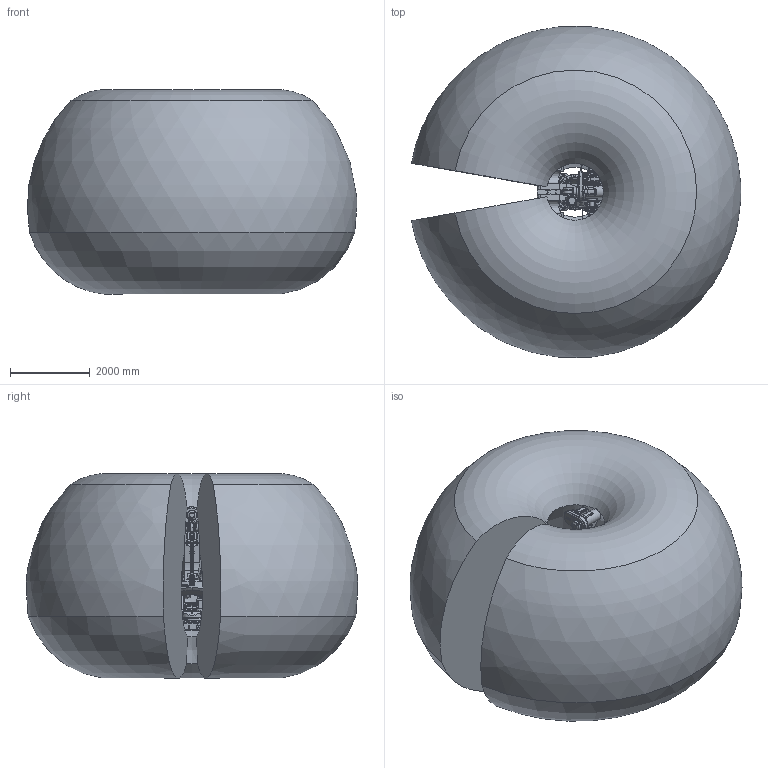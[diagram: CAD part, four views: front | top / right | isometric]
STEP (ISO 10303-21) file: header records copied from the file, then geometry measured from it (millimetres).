
FILE_DESCRIPTION(/* description */ (''),/* implementation_level */ '2;1');
FILE_NAME(/* name */ 'E:\组装完成的图纸\IRB 8700\IRB 8700-550-4.2\IRB 8700-550-4.2(带工作域).stp',/* time_stamp */ '2023-10-31T12:18:14+08:00',/* author */ ('Administrator'),/* organization */ (''),/* preprocessor_version */ 'ST-DEVELOPER v16.5',/* originating_system */ 'Autodesk Inventor 2017',/* authorisation */ '');
FILE_SCHEMA (('AUTOMOTIVE_DESIGN { 1 0 10303 214 3 1 1 }'));
Length unit declared in the file: millimetre
Products named in the file (15): 部件4; IRB8700_550-420_IRC5_rev00_BAL-A-LEFT_CAD; IRB8700_550-420_IRC5_rev00_BAL-A-RIGHT_CAD; IRB8700_550-420_IRC5_rev00_BAL-B-LEFT_CAD; IRB8700_550-420_IRC5_rev00_BAL-B-RIGHT_CAD; IRB8700_550-420_IRC5_rev00_LINK1_CAD; IRB8700_550-420_IRC5_rev00_LINK2_CAD; IRB8700_550-420_IRC5_rev00_LINK3_CAD; IRB8700_550-420_IRC5_rev00_LINK4_CAD; IRB8700_550-420_IRC5_rev00_LINK5_CAD; IRB8700_550-420_IRC5_rev00_LINK6_CAD; IRB8700_550-420_IRC5_rev00_LINKARM_CAD; IRB8700_550-420_IRC5_rev00_LINKBAR_CAD; IRB8700_550-420_IRC5_rev01_BASE_CAD; IRB8700_550-420_IRC5_WORKING_AREA
Assembly tree (14 placements, depth 2):
  部件4
    IRB8700_550-420_IRC5_rev00_BAL-A-LEFT_CAD
    IRB8700_550-420_IRC5_rev00_BAL-A-RIGHT_CAD
    IRB8700_550-420_IRC5_rev00_BAL-B-LEFT_CAD
    IRB8700_550-420_IRC5_rev00_BAL-B-RIGHT_CAD
    IRB8700_550-420_IRC5_rev00_LINK1_CAD
    IRB8700_550-420_IRC5_rev00_LINK2_CAD
    IRB8700_550-420_IRC5_rev00_LINK3_CAD
    IRB8700_550-420_IRC5_rev00_LINK4_CAD
    IRB8700_550-420_IRC5_rev00_LINK5_CAD
    IRB8700_550-420_IRC5_rev00_LINK6_CAD
    IRB8700_550-420_IRC5_rev00_LINKARM_CAD
    IRB8700_550-420_IRC5_rev00_LINKBAR_CAD
    IRB8700_550-420_IRC5_rev01_BASE_CAD
    IRB8700_550-420_IRC5_WORKING_AREA
Bounding box: 8243.8 x 8290.59 x 5118.3 mm (x, y, z)
Volume: 192500822960.9 mm3; surface area: 260511582.7 mm2
Topology: 19 solids, 27 shells, 4978 faces, 12491 edges, 8105 vertices
Faces by surface type: plane 2890, cylinder 1125, cone 528, bspline 386, torus 45, sphere 4
Full cylindrical faces by diameter (mm): 1.6 x3, 5 x10, 5.45 x1, 6.5 x4, 6.6 x12, 6.8 x26, 8 x1, 8.5 x8, 8.6 x2, 8.8 x2, 10.2 x4, 11 x3, 11.05 x2, 11.2 x1, 11.5 x1, 12 x1, 12.9 x2, 13.3 x4, 14 x27, 15 x4, 16 x1, 17 x16, 18.3 x32, 18.5 x8, 19 x79, 20 x5, 21 x6, 22 x2, 22.114 x1, 24 x51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
Entity records: 260878 total; most frequent: CARTESIAN_POINT 146228, ORIENTED_EDGE 23378, DIRECTION 22822, EDGE_CURVE 11689, AXIS2_PLACEMENT_3D 8236, VERTEX_POINT 7972, LINE 6350, VECTOR 6350
